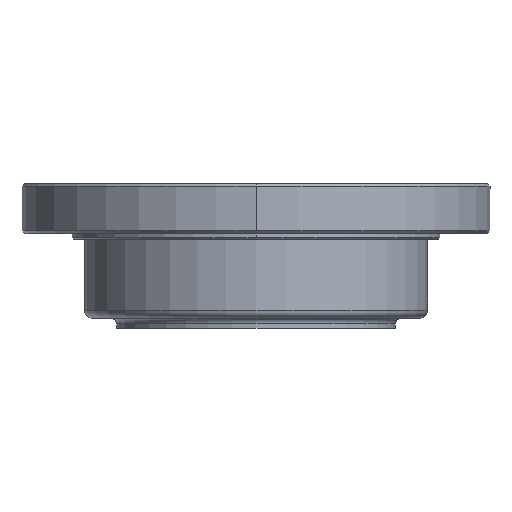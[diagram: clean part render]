
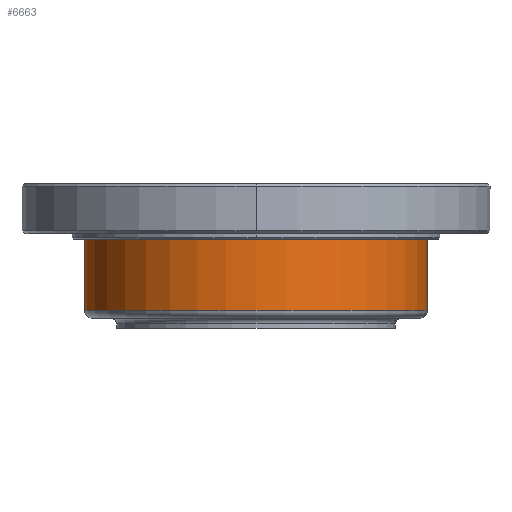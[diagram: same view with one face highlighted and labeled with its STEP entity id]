
A CAD part, left-side view. The second image highlights one B-rep face of the part: STEP entity #6663.
In plain terms, the highlighted cylindrical face has radius 30.8 mm (diameter 61.6 mm), a partial arc.
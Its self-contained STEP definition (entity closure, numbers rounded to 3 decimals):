
#17 = CARTESIAN_POINT ( 'NONE',  ( 0., 26., 0. ) ) ;
#186 = DIRECTION ( 'NONE',  ( 0., 1., 0. ) ) ;
#574 = AXIS2_PLACEMENT_3D ( 'NONE', #17, #3391, #8546 ) ;
#684 = EDGE_CURVE ( 'NONE', #5194, #6540, #1204, .T. ) ;
#745 = ORIENTED_EDGE ( 'NONE', *, *, #4522, .T. ) ;
#1204 = LINE ( 'NONE', #7300, #7848 ) ;
#1493 = AXIS2_PLACEMENT_3D ( 'NONE', #4982, #3120, #6578 ) ;
#1606 = EDGE_LOOP ( 'NONE', ( #9457, #745, #1702, #9489 ) ) ;
#1662 = AXIS2_PLACEMENT_3D ( 'NONE', #3141, #7544, #3982 ) ;
#1702 = ORIENTED_EDGE ( 'NONE', *, *, #684, .T. ) ;
#1865 = VERTEX_POINT ( 'NONE', #10642 ) ;
#2088 = CARTESIAN_POINT ( 'NONE',  ( 0., 22.7, -30.8 ) ) ;
#2339 = EDGE_CURVE ( 'NONE', #1865, #2675, #5652, .T. ) ;
#2675 = VERTEX_POINT ( 'NONE', #2088 ) ;
#3120 = DIRECTION ( 'NONE',  ( 0., 1., 0. ) ) ;
#3141 = CARTESIAN_POINT ( 'NONE',  ( 0., 22.7, 0. ) ) ;
#3204 = CARTESIAN_POINT ( 'NONE',  ( 0., 22.7, 30.8 ) ) ;
#3346 = VECTOR ( 'NONE', #186, 1000. ) ;
#3391 = DIRECTION ( 'NONE',  ( 0., 1., 0. ) ) ;
#3593 = FACE_OUTER_BOUND ( 'NONE', #1606, .T. ) ;
#3725 = CYLINDRICAL_SURFACE ( 'NONE', #574, 30.8 ) ;
#3982 = DIRECTION ( 'NONE',  ( 0., 0., 1. ) ) ;
#4522 = EDGE_CURVE ( 'NONE', #1865, #5194, #9031, .T. ) ;
#4535 = DIRECTION ( 'NONE',  ( 0., 1., 0. ) ) ;
#4759 = CIRCLE ( 'NONE', #1662, 30.8 ) ;
#4982 = CARTESIAN_POINT ( 'NONE',  ( 0., 0., 0. ) ) ;
#5194 = VERTEX_POINT ( 'NONE', #11122 ) ;
#5652 = LINE ( 'NONE', #8006, #3346 ) ;
#6540 = VERTEX_POINT ( 'NONE', #3204 ) ;
#6578 = DIRECTION ( 'NONE',  ( 0., 0., 1. ) ) ;
#6663 = ADVANCED_FACE ( 'NONE', ( #3593 ), #3725, .T. ) ;
#7300 = CARTESIAN_POINT ( 'NONE',  ( 0., 26., 30.8 ) ) ;
#7544 = DIRECTION ( 'NONE',  ( 0., 1., 0. ) ) ;
#7848 = VECTOR ( 'NONE', #4535, 1000. ) ;
#8006 = CARTESIAN_POINT ( 'NONE',  ( 0., 26., -30.8 ) ) ;
#8546 = DIRECTION ( 'NONE',  ( 0., 0., 1. ) ) ;
#9031 = CIRCLE ( 'NONE', #1493, 30.8 ) ;
#9356 = EDGE_CURVE ( 'NONE', #2675, #6540, #4759, .T. ) ;
#9457 = ORIENTED_EDGE ( 'NONE', *, *, #2339, .F. ) ;
#9489 = ORIENTED_EDGE ( 'NONE', *, *, #9356, .F. ) ;
#10642 = CARTESIAN_POINT ( 'NONE',  ( 0., 0., -30.8 ) ) ;
#11122 = CARTESIAN_POINT ( 'NONE',  ( 0., 0., 30.8 ) ) ;
